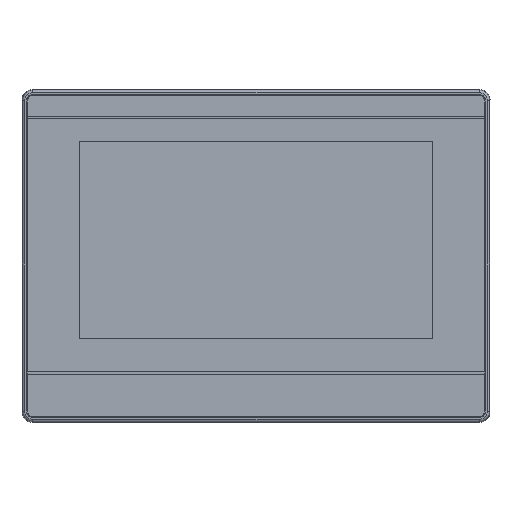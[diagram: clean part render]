
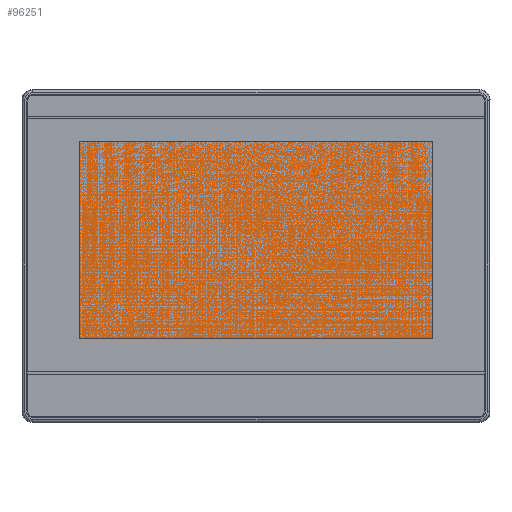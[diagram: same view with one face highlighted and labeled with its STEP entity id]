
A CAD part, top view. The second image highlights one B-rep face of the part: STEP entity #96251.
In plain terms, the highlighted planar face has unit normal (0, 0, 1).
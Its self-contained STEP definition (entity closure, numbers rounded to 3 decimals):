
#95790=DIRECTION('',(0.,1.,0.));
#95791=VECTOR('',#95790,85.92);
#95792=CARTESIAN_POINT('',(-77.06,-47.47,3.4));
#95793=LINE('',#95792,#95791);
#95794=DIRECTION('',(1.,0.,0.));
#95795=VECTOR('',#95794,154.08);
#95796=CARTESIAN_POINT('',(-77.06,38.45,3.4));
#95797=LINE('',#95796,#95795);
#95798=DIRECTION('',(0.,-1.,0.));
#95799=VECTOR('',#95798,85.92);
#95800=CARTESIAN_POINT('',(77.02,38.45,3.4));
#95801=LINE('',#95800,#95799);
#95802=DIRECTION('',(-1.,0.,0.));
#95803=VECTOR('',#95802,154.08);
#95804=CARTESIAN_POINT('',(77.02,-47.47,3.4));
#95805=LINE('',#95804,#95803);
#95807=CARTESIAN_POINT('',(-77.06,-47.47,3.4));
#95809=VERTEX_POINT('',#95807);
#95812=CARTESIAN_POINT('',(-77.06,38.45,3.4));
#95813=VERTEX_POINT('',#95812);
#95815=CARTESIAN_POINT('',(77.02,-47.47,3.4));
#95817=VERTEX_POINT('',#95815);
#95819=CARTESIAN_POINT('',(77.02,38.45,3.4));
#95821=VERTEX_POINT('',#95819);
#96240=CARTESIAN_POINT('',(0.,0.,3.4));
#96241=DIRECTION('',(0.,0.,1.));
#96242=DIRECTION('',(1.,0.,0.));
#96243=AXIS2_PLACEMENT_3D('',#96240,#96241,#96242);
#96244=PLANE('',#96243);
#96245=ORIENTED_EDGE('',*,*,#95897,.T.);
#96246=ORIENTED_EDGE('',*,*,#95941,.T.);
#96247=ORIENTED_EDGE('',*,*,#95927,.T.);
#96248=ORIENTED_EDGE('',*,*,#95912,.T.);
#96249=EDGE_LOOP('',(#96245,#96246,#96247,#96248));
#96250=FACE_OUTER_BOUND('',#96249,.F.);
#96251=ADVANCED_FACE('',(#96250),#96244,.T.);
#95897=EDGE_CURVE('',#95809,#95813,#95793,.T.);
#95912=EDGE_CURVE('',#95817,#95809,#95805,.T.);
#95927=EDGE_CURVE('',#95821,#95817,#95801,.T.);
#95941=EDGE_CURVE('',#95813,#95821,#95797,.T.);
